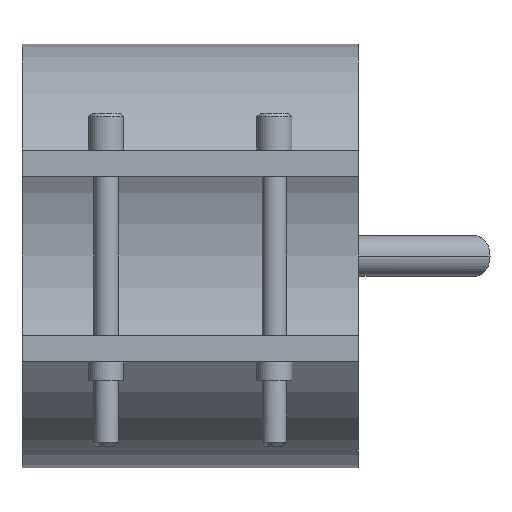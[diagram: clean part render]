
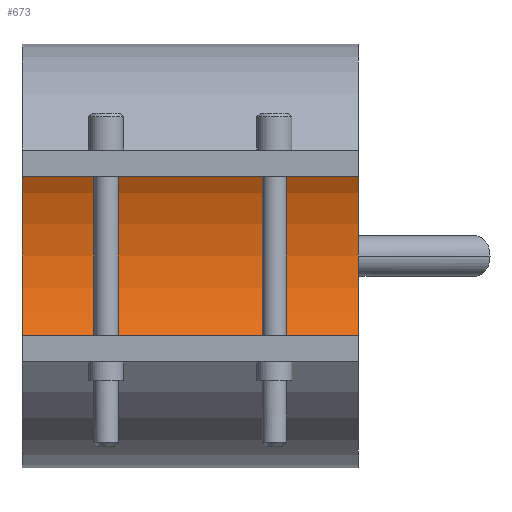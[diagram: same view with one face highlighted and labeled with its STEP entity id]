
A CAD part, front view. The second image highlights one B-rep face of the part: STEP entity #673.
In plain terms, the highlighted cylindrical face has radius 27.5 mm (diameter 55 mm), a partial arc.
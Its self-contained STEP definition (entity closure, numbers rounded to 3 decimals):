
#343=CARTESIAN_POINT('Vertex',(25.,0.,27.5)) ;
#348=CARTESIAN_POINT('Axis2P3D Location',(25.,0.,0.)) ;
#352=CARTESIAN_POINT('Vertex',(25.,0.,-27.5)) ;
#459=CARTESIAN_POINT('Vertex',(-25.,0.,-27.5)) ;
#462=CARTESIAN_POINT('Axis2P3D Location',(-25.,0.,0.)) ;
#466=CARTESIAN_POINT('Vertex',(-25.,0.,27.5)) ;
#645=CARTESIAN_POINT('Line Origine',(25.,0.,27.5)) ;
#657=CARTESIAN_POINT('Axis2P3D Location',(25.,0.,0.)) ;
#662=CARTESIAN_POINT('Line Origine',(25.,0.,-27.5)) ;
#349=DIRECTION('Axis2P3D Direction',(1.,0.,0.)) ;
#463=DIRECTION('Axis2P3D Direction',(1.,0.,0.)) ;
#646=DIRECTION('Vector Direction',(1.,0.,0.)) ;
#658=DIRECTION('Axis2P3D Direction',(1.,0.,-0.)) ;
#659=DIRECTION('Axis2P3D XDirection',(0.,0.,-1.)) ;
#663=DIRECTION('Vector Direction',(1.,0.,0.)) ;
#350=AXIS2_PLACEMENT_3D('Circle Axis2P3D',#348,#349,$) ;
#464=AXIS2_PLACEMENT_3D('Circle Axis2P3D',#462,#463,$) ;
#660=AXIS2_PLACEMENT_3D('Cylinder Axis2P3D',#657,#658,#659) ;
#668=ORIENTED_EDGE('',*,*,#354,.T.) ;
#669=ORIENTED_EDGE('',*,*,#649,.T.) ;
#670=ORIENTED_EDGE('',*,*,#468,.F.) ;
#671=ORIENTED_EDGE('',*,*,#666,.T.) ;
#647=VECTOR('Line Direction',#646,1.) ;
#664=VECTOR('Line Direction',#663,1.) ;
#673=ADVANCED_FACE('29055050',(#672),#661,.F.) ;
#351=CIRCLE('generated circle',#350,27.5) ;
#465=CIRCLE('generated circle',#464,27.5) ;
#661=CYLINDRICAL_SURFACE('generated cylinder',#660,27.5) ;
#354=EDGE_CURVE('',#353,#344,#351,.T.) ;
#468=EDGE_CURVE('',#460,#467,#465,.T.) ;
#649=EDGE_CURVE('',#344,#467,#648,.F.) ;
#666=EDGE_CURVE('',#460,#353,#665,.T.) ;
#667=EDGE_LOOP('',(#668,#669,#670,#671)) ;
#672=FACE_OUTER_BOUND('',#667,.T.) ;
#648=LINE('Line',#645,#647) ;
#665=LINE('Line',#662,#664) ;
#344=VERTEX_POINT('',#343) ;
#353=VERTEX_POINT('',#352) ;
#460=VERTEX_POINT('',#459) ;
#467=VERTEX_POINT('',#466) ;
